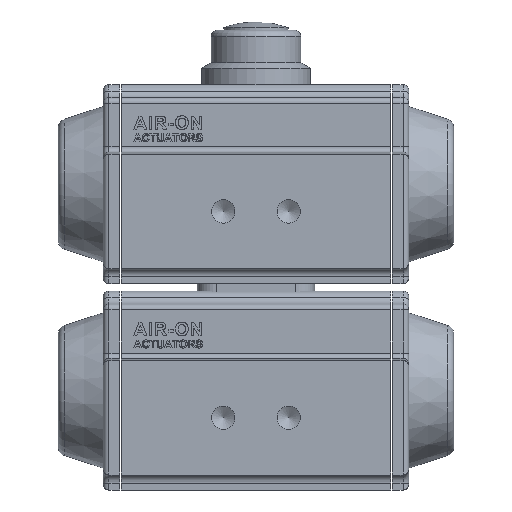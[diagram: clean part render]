
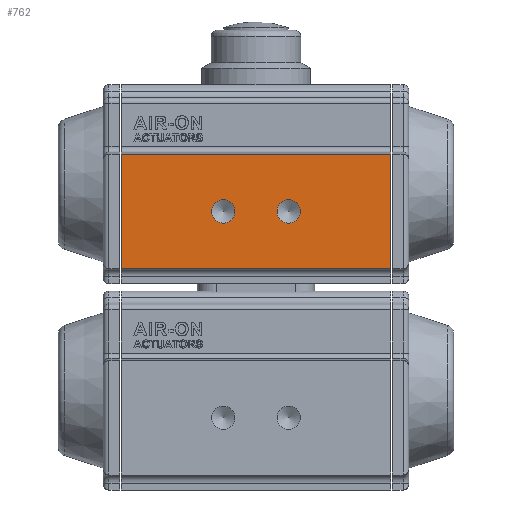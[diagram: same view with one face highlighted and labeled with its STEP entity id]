
A CAD part, front view. The second image highlights one B-rep face of the part: STEP entity #762.
In plain terms, the highlighted planar face has unit normal (0, -1, 0).
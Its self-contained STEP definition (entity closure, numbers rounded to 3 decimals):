
#762 = ADVANCED_FACE( '', ( #1889, #1890, #1891 ), #1892, .T. );
#1889 = FACE_BOUND( '', #4246, .T. );
#1890 = FACE_BOUND( '', #4247, .T. );
#1891 = FACE_OUTER_BOUND( '', #4248, .T. );
#1892 = PLANE( '', #4249 );
#4246 = EDGE_LOOP( '', ( #7945 ) );
#4247 = EDGE_LOOP( '', ( #7946 ) );
#4248 = EDGE_LOOP( '', ( #7947, #7948, #7949, #7950 ) );
#4249 = AXIS2_PLACEMENT_3D( '', #7951, #7952, #7953 );
#7945 = ORIENTED_EDGE( '', *, *, #11835, .T. );
#7946 = ORIENTED_EDGE( '', *, *, #11749, .T. );
#7947 = ORIENTED_EDGE( '', *, *, #11836, .F. );
#7948 = ORIENTED_EDGE( '', *, *, #11837, .F. );
#7949 = ORIENTED_EDGE( '', *, *, #11838, .T. );
#7950 = ORIENTED_EDGE( '', *, *, #11839, .T. );
#7951 = CARTESIAN_POINT( '', ( 49.5, -42., -31. ) );
#7952 = DIRECTION( '', ( 0., -1., 0. ) );
#7953 = DIRECTION( '', ( 0., 0., -1. ) );
#11749 = EDGE_CURVE( '', #13710, #13710, #13711, .T. );
#11835 = EDGE_CURVE( '', #13851, #13851, #13852, .T. );
#11836 = EDGE_CURVE( '', #13853, #13854, #13855, .T. );
#11837 = EDGE_CURVE( '', #13856, #13853, #13857, .T. );
#11838 = EDGE_CURVE( '', #13856, #13858, #13859, .T. );
#11839 = EDGE_CURVE( '', #13858, #13854, #13860, .T. );
#13710 = VERTEX_POINT( '', #17996 );
#13711 = CIRCLE( '', #17997, 4.283 );
#13851 = VERTEX_POINT( '', #18412 );
#13852 = CIRCLE( '', #18413, 4.283 );
#13853 = VERTEX_POINT( '', #18414 );
#13854 = VERTEX_POINT( '', #18415 );
#13855 = LINE( '', #18416, #18417 );
#13856 = VERTEX_POINT( '', #18418 );
#13857 = LINE( '', #18419, #18420 );
#13858 = VERTEX_POINT( '', #18421 );
#13859 = LINE( '', #18422, #18423 );
#13860 = LINE( '', #18424, #18425 );
#17996 = CARTESIAN_POINT( '', ( 12., -42., -14.283 ) );
#17997 = AXIS2_PLACEMENT_3D( '', #21952, #21953, #21954 );
#18412 = CARTESIAN_POINT( '', ( -12., -42., -14.283 ) );
#18413 = AXIS2_PLACEMENT_3D( '', #22008, #22009, #22010 );
#18414 = CARTESIAN_POINT( '', ( -49.5, -42., -31. ) );
#18415 = CARTESIAN_POINT( '', ( -49.5, -42., 11. ) );
#18416 = CARTESIAN_POINT( '', ( -49.5, -42., -31. ) );
#18417 = VECTOR( '', #22011, 1000. );
#18418 = CARTESIAN_POINT( '', ( 49.5, -42., -31. ) );
#18419 = CARTESIAN_POINT( '', ( 49.5, -42., -31. ) );
#18420 = VECTOR( '', #22012, 1000. );
#18421 = CARTESIAN_POINT( '', ( 49.5, -42., 11. ) );
#18422 = CARTESIAN_POINT( '', ( 49.5, -42., -31. ) );
#18423 = VECTOR( '', #22013, 1000. );
#18424 = CARTESIAN_POINT( '', ( 49.5, -42., 11. ) );
#18425 = VECTOR( '', #22014, 1000. );
#21952 = CARTESIAN_POINT( '', ( 12., -42., -10. ) );
#21953 = DIRECTION( '', ( 0., 1., 0. ) );
#21954 = DIRECTION( '', ( 0., 0., -1. ) );
#22008 = CARTESIAN_POINT( '', ( -12., -42., -10. ) );
#22009 = DIRECTION( '', ( 0., 1., 0. ) );
#22010 = DIRECTION( '', ( 0., 0., -1. ) );
#22011 = DIRECTION( '', ( 0., 0., 1. ) );
#22012 = DIRECTION( '', ( -1., 0., 0. ) );
#22013 = DIRECTION( '', ( 0., 0., 1. ) );
#22014 = DIRECTION( '', ( -1., 0., 0. ) );
